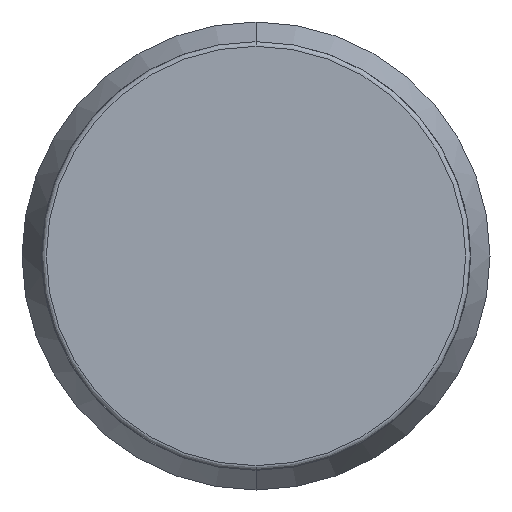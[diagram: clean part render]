
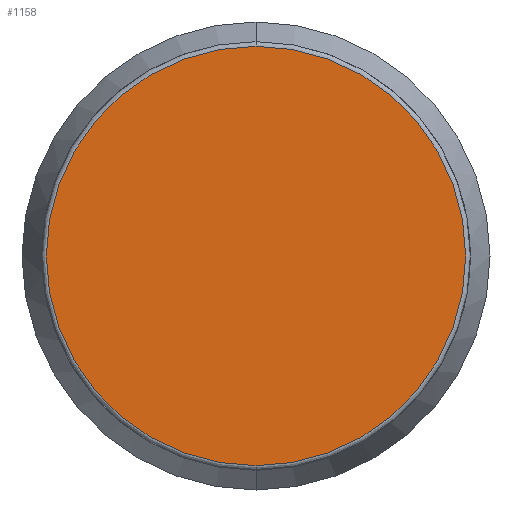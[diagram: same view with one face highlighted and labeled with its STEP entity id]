
A CAD part, front view. The second image highlights one B-rep face of the part: STEP entity #1158.
In plain terms, the highlighted planar face has unit normal (0, -1, 0).
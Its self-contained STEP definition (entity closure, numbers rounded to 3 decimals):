
#5 = CARTESIAN_POINT ( 'NONE',  ( 0., 0., 0. ) ) ;
#7 = EDGE_LOOP ( 'NONE', ( #325, #317 ) ) ;
#46 = CARTESIAN_POINT ( 'NONE',  ( 0., 0., 11.2 ) ) ;
#57 = DIRECTION ( 'NONE',  ( 0., 0., -1. ) ) ;
#217 = AXIS2_PLACEMENT_3D ( 'NONE', #324, #597, #57 ) ;
#317 = ORIENTED_EDGE ( 'NONE', *, *, #535, .T. ) ;
#324 = CARTESIAN_POINT ( 'NONE',  ( 0., 0., 0. ) ) ;
#325 = ORIENTED_EDGE ( 'NONE', *, *, #619, .T. ) ;
#347 = DIRECTION ( 'NONE',  ( 0., 0., -1. ) ) ;
#349 = DIRECTION ( 'NONE',  ( 0., 0., -1. ) ) ;
#419 = AXIS2_PLACEMENT_3D ( 'NONE', #984, #816, #349 ) ;
#474 = CIRCLE ( 'NONE', #1084, 11.2 ) ;
#534 = PLANE ( 'NONE',  #419 ) ;
#535 = EDGE_CURVE ( 'NONE', #1132, #615, #474, .T. ) ;
#597 = DIRECTION ( 'NONE',  ( 0., -1., 0. ) ) ;
#615 = VERTEX_POINT ( 'NONE', #947 ) ;
#619 = EDGE_CURVE ( 'NONE', #615, #1132, #1081, .T. ) ;
#628 = FACE_OUTER_BOUND ( 'NONE', #7, .T. ) ;
#670 = DIRECTION ( 'NONE',  ( 0., -1., 0. ) ) ;
#816 = DIRECTION ( 'NONE',  ( 0., -1., 0. ) ) ;
#947 = CARTESIAN_POINT ( 'NONE',  ( 0., 0., -11.2 ) ) ;
#984 = CARTESIAN_POINT ( 'NONE',  ( 0., 0., 0. ) ) ;
#1081 = CIRCLE ( 'NONE', #217, 11.2 ) ;
#1084 = AXIS2_PLACEMENT_3D ( 'NONE', #5, #670, #347 ) ;
#1132 = VERTEX_POINT ( 'NONE', #46 ) ;
#1158 = ADVANCED_FACE ( 'NONE', ( #628 ), #534, .T. ) ;
